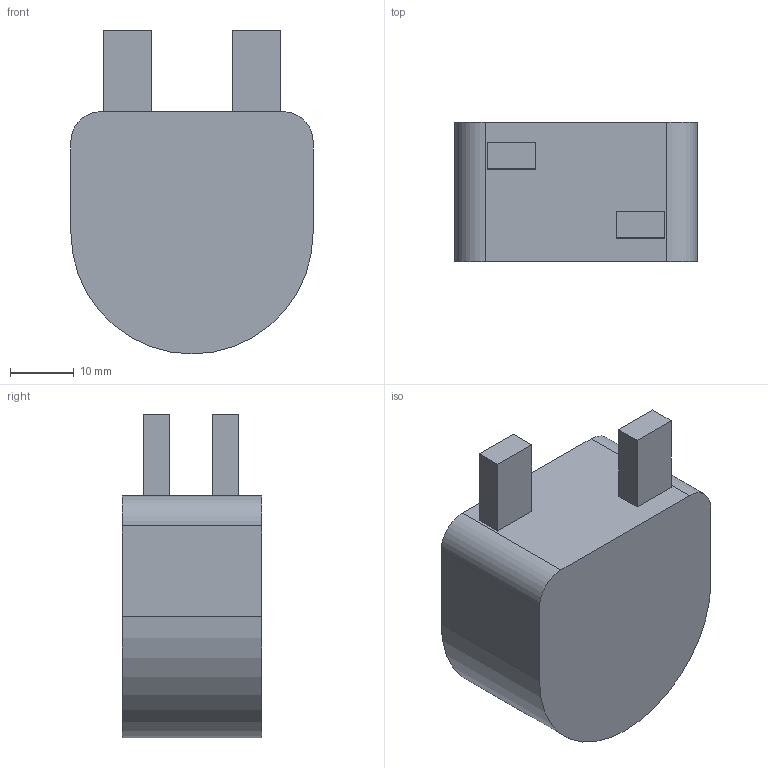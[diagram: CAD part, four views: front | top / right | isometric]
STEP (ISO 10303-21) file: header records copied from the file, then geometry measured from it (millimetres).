
FILE_DESCRIPTION (( 'STEP AP214' ), '1' );
FILE_NAME ('IHXL1500VZEBR68M31.STEP', '2025-08-07T20:46:11', ( '' ), ( '' ), 'SwSTEP 2.0', 'SolidWorks 2024', '' );
FILE_SCHEMA (( 'AUTOMOTIVE_DESIGN' ));
Length unit declared in the file: inch
Products named in the file (1): IHXL1500VZEBR68M31
Bounding box: 38.1 x 21.89 x 50.93 mm (x, y, z)
Volume: 28958.3 mm3; surface area: 6060.9 mm2
Topology: 1 solids, 1 shells, 19 faces, 45 edges, 30 vertices
Faces by surface type: plane 15, cylinder 4
Entity records: 574 total; most frequent: CARTESIAN_POINT 95, DIRECTION 93, ORIENTED_EDGE 90, EDGE_CURVE 45, LINE 37, VECTOR 37, VERTEX_POINT 30, AXIS2_PLACEMENT_3D 28
